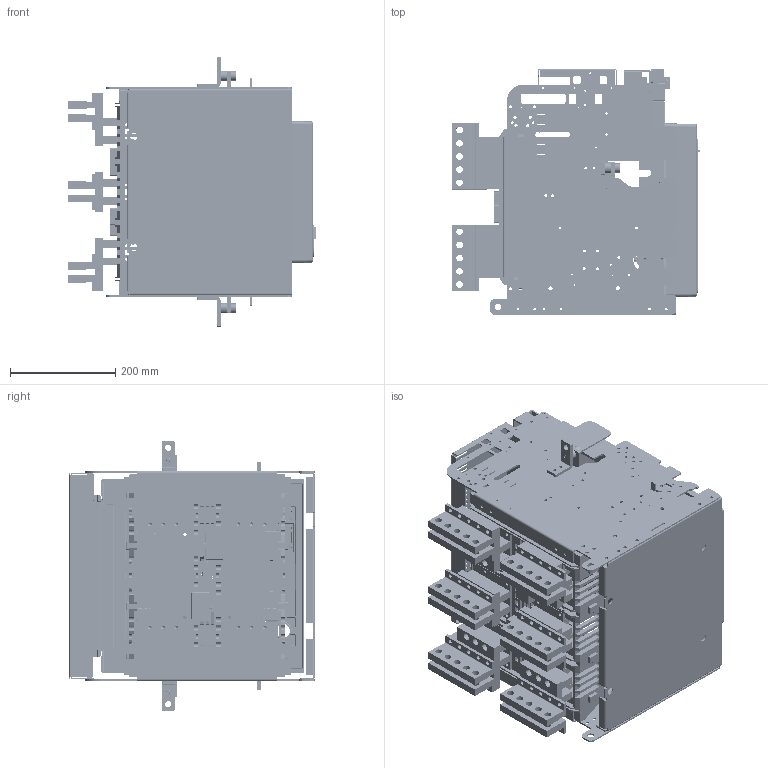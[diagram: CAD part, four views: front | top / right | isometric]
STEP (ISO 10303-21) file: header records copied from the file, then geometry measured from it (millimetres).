
FILE_DESCRIPTION((''),'2;1');
FILE_NAME('HG_16_B403V_ASM_ASM','2019-03-27T',('HHI'),(''),'PRO/ENGINEER BY PARAMETRIC TECHNOLOGY CORPORATION, 2012453','PRO/ENGINEER BY PARAMETRIC TECHNOLOGY CORPORATION, 2012453','');
FILE_SCHEMA(('CONFIG_CONTROL_DESIGN'));
Products named in the file (46): PRT0194; PRT0195; ASM0054_ASM; PRT0196; PRT0197; PRT0198; ASM0055_ASM; PRT0199; PRT0200; PRT0201; ISOLATING_CONDUCTOR_40V_L100_10; COMMON_CONDUCTOR_V_8; ISOLATING_CONDUCTOR_L100_ASM_8_ASM; ISOLATING_CONDUCTOR_40V_L75_9; ISOLATING_CONDUCTOR_L75_ASM_8_ASM; COMMON_S_5; COMMON_RN_5; JOINT_TERMINAL_40V_12; PRT0202; PRT0204; PRT0205; PRT0206; PRT0207; ASM0057_ASM; PRT0208; PRT0209; PRT0210; ASM0058_ASM; PRT0213; ASM0056_ASM; PRT0214; PRT0215; PRT0216; PRT0217; PRT0218; ASM0059_ASM; PRT0219; PRT0220; FIX_BLOCK_CRADLE_6; BOLT_5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
Assembly tree (67 placements, depth 5):
  HG_16_B403V_ASM_ASM
    B403V_ASM_12_ASM
      ASM0054_ASM
        PRT0194
        PRT0195
      PRT0196
      ASM0055_ASM
        PRT0197
        PRT0198
      PRT0199
      PRT0200
      PRT0201
      ISOLATING_CONDUCTOR_L100_ASM_8_ASM  x3
        ISOLATING_CONDUCTOR_40V_L100_10
        COMMON_CONDUCTOR_V_8
      ISOLATING_CONDUCTOR_L75_ASM_8_ASM  x3
        ISOLATING_CONDUCTOR_40V_L75_9
        COMMON_CONDUCTOR_V_8
      COMMON_S_5  x2
      COMMON_RN_5  x4
      JOINT_TERMINAL_40V_12  x12
      ASM0056_ASM
        PRT0202
        ASM0057_ASM
          PRT0204
          PRT0205
          PRT0206
          PRT0207
        ASM0058_ASM
          PRT0208
          PRT0209
          PRT0210
        PRT0213
      PRT0214
      ASM0059_ASM
        PRT0215
        PRT0216
        PRT0217
        PRT0218
      ASM0060_ASM
        PRT0219
        PRT0220
        FIX_BLOCK_CRADLE_6
        BOLT_5
    HG_FRONT_COVER_40
    4AT-06477S03
    4AT-06477S04
Bounding box: 472.03 x 466.35 x 511 mm (x, y, z)
Volume: 7779699.9 mm3; surface area: 3894725.5 mm2
Topology: 65 solids, 65 shells, 15488 faces, 45123 edges, 29458 vertices
Faces by surface type: plane 11047, cylinder 3707, torus 235, extrusion 141, cone 140, sphere 137, bspline 81
Entity records: 477323 total; most frequent: CARTESIAN_POINT 91046, ORIENTED_EDGE 83404, DIRECTION 75922, EDGE_CURVE 41702, VECTOR 34604, LINE 34463, VERTEX_POINT 27219, AXIS2_PLACEMENT_3D 20659
